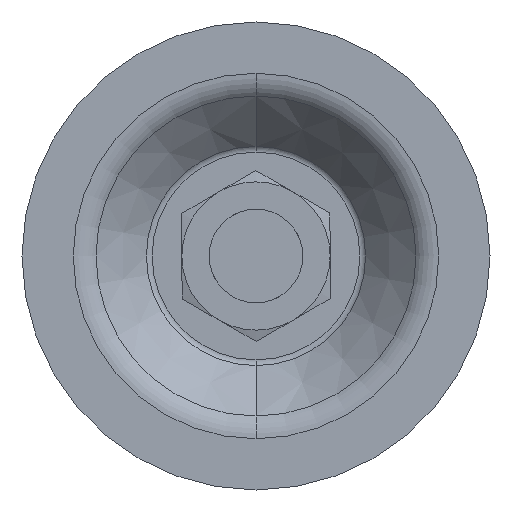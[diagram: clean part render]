
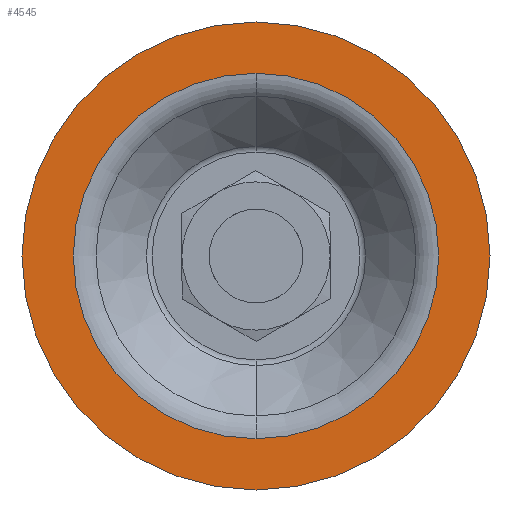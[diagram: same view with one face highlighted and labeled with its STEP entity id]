
A CAD part, front view. The second image highlights one B-rep face of the part: STEP entity #4545.
In plain terms, the highlighted planar face has unit normal (0, -1, 0).
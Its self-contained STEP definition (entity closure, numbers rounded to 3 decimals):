
#261 = VERTEX_POINT ( 'NONE', #7242 ) ;
#369 = DIRECTION ( 'NONE',  ( 0., 1., 0. ) ) ;
#453 = CARTESIAN_POINT ( 'NONE',  ( 0., 0., -23.434 ) ) ;
#899 = AXIS2_PLACEMENT_3D ( 'NONE', #2746, #369, #7611 ) ;
#915 = DIRECTION ( 'NONE',  ( 0., 0., 1. ) ) ;
#1294 = CIRCLE ( 'NONE', #4355, 30. ) ;
#1643 = PLANE ( 'NONE',  #899 ) ;
#1850 = EDGE_CURVE ( 'NONE', #6943, #4277, #2795, .T. ) ;
#1948 = CIRCLE ( 'NONE', #3774, 30. ) ;
#2440 = EDGE_CURVE ( 'NONE', #261, #5010, #1948, .T. ) ;
#2746 = CARTESIAN_POINT ( 'NONE',  ( 30., 0., 0. ) ) ;
#2795 = CIRCLE ( 'NONE', #4733, 23.434 ) ;
#2848 = CARTESIAN_POINT ( 'NONE',  ( 0., 0., -30. ) ) ;
#3081 = EDGE_LOOP ( 'NONE', ( #3503, #6412 ) ) ;
#3225 = DIRECTION ( 'NONE',  ( 0., 1., 0. ) ) ;
#3503 = ORIENTED_EDGE ( 'NONE', *, *, #2440, .F. ) ;
#3764 = CARTESIAN_POINT ( 'NONE',  ( 0., 0., 23.434 ) ) ;
#3774 = AXIS2_PLACEMENT_3D ( 'NONE', #7754, #7695, #5325 ) ;
#4277 = VERTEX_POINT ( 'NONE', #3764 ) ;
#4355 = AXIS2_PLACEMENT_3D ( 'NONE', #6674, #6009, #6561 ) ;
#4485 = CARTESIAN_POINT ( 'NONE',  ( 0., 0., 0. ) ) ;
#4545 = ADVANCED_FACE ( 'NONE', ( #7658, #7083 ), #1643, .F. ) ;
#4733 = AXIS2_PLACEMENT_3D ( 'NONE', #4485, #7585, #915 ) ;
#4986 = CARTESIAN_POINT ( 'NONE',  ( 0., 0., 0. ) ) ;
#5010 = VERTEX_POINT ( 'NONE', #2848 ) ;
#5037 = DIRECTION ( 'NONE',  ( 0., 0., 1. ) ) ;
#5162 = ORIENTED_EDGE ( 'NONE', *, *, #1850, .T. ) ;
#5316 = EDGE_LOOP ( 'NONE', ( #5668, #5162 ) ) ;
#5325 = DIRECTION ( 'NONE',  ( 0., 0., 1. ) ) ;
#5668 = ORIENTED_EDGE ( 'NONE', *, *, #6423, .T. ) ;
#6009 = DIRECTION ( 'NONE',  ( 0., 1., 0. ) ) ;
#6068 = CIRCLE ( 'NONE', #6240, 23.434 ) ;
#6240 = AXIS2_PLACEMENT_3D ( 'NONE', #4986, #3225, #5037 ) ;
#6412 = ORIENTED_EDGE ( 'NONE', *, *, #7579, .F. ) ;
#6423 = EDGE_CURVE ( 'NONE', #4277, #6943, #6068, .T. ) ;
#6561 = DIRECTION ( 'NONE',  ( 0., 0., 1. ) ) ;
#6674 = CARTESIAN_POINT ( 'NONE',  ( 0., 0., 0. ) ) ;
#6943 = VERTEX_POINT ( 'NONE', #453 ) ;
#7083 = FACE_BOUND ( 'NONE', #5316, .T. ) ;
#7242 = CARTESIAN_POINT ( 'NONE',  ( 0., 0., 30. ) ) ;
#7579 = EDGE_CURVE ( 'NONE', #5010, #261, #1294, .T. ) ;
#7585 = DIRECTION ( 'NONE',  ( 0., 1., 0. ) ) ;
#7611 = DIRECTION ( 'NONE',  ( 0., 0., 1. ) ) ;
#7658 = FACE_OUTER_BOUND ( 'NONE', #3081, .T. ) ;
#7695 = DIRECTION ( 'NONE',  ( 0., 1., 0. ) ) ;
#7754 = CARTESIAN_POINT ( 'NONE',  ( 0., 0., 0. ) ) ;
